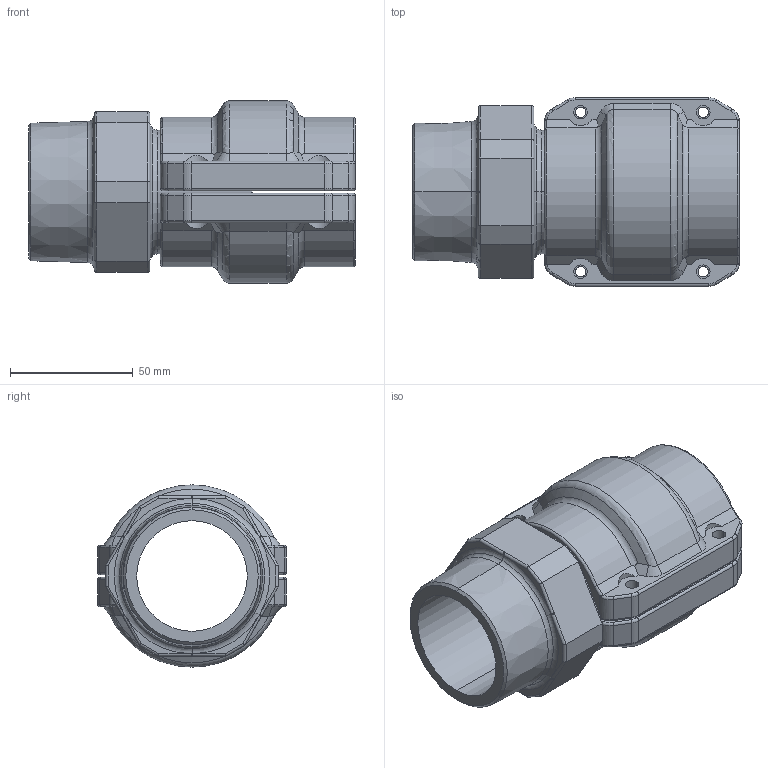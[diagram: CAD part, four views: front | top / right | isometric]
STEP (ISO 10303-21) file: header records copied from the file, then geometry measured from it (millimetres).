
FILE_DESCRIPTION((''),'2;1');
FILE_NAME('AU15551799_ASM_2_ASM_1_ASM','2017-05-16T',('Administrator'),(''),'PRO/ENGINEER BY PARAMETRIC TECHNOLOGY CORPORATION, 2009360','PRO/ENGINEER BY PARAMETRIC TECHNOLOGY CORPORATION, 2009360','');
FILE_SCHEMA(('AUTOMOTIVE_DESIGN_CC2 { 1 2 10303 214 -1 1 5 2 }'));
Length unit declared in the file: millimetre
Products named in the file (5): AU15551700_1_1; 201550020001_1_1; 201550020000_1_1; 2015500200_ASM_1_ASM_1_ASM; AU15551799_ASM_2_ASM_1_ASM
Assembly tree (4 placements, depth 3):
  AU15551799_ASM_2_ASM_1_ASM
    AU15551700_1_1
    2015500200_ASM_1_ASM_1_ASM
      201550020001_1_1
      201550020000_1_1
Bounding box: 133.26 x 77 x 74.3 mm (x, y, z)
Volume: 222770.3 mm3; surface area: 70801.6 mm2
Topology: 3 solids, 3 shells, 289 faces, 728 edges, 438 vertices
Faces by surface type: cylinder 126, torus 60, plane 57, bspline 30, cone 8, sphere 8
Entity records: 12175 total; most frequent: CARTESIAN_POINT 3098, ORIENTED_EDGE 1440, DIRECTION 1438, PRESENTATION_STYLE_ASSIGNMENT 723, STYLED_ITEM 723, CURVE_STYLE 720, EDGE_CURVE 720, AXIS2_PLACEMENT_3D 584
